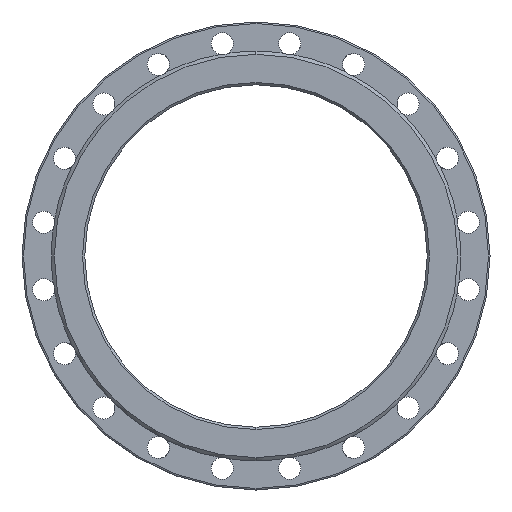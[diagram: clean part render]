
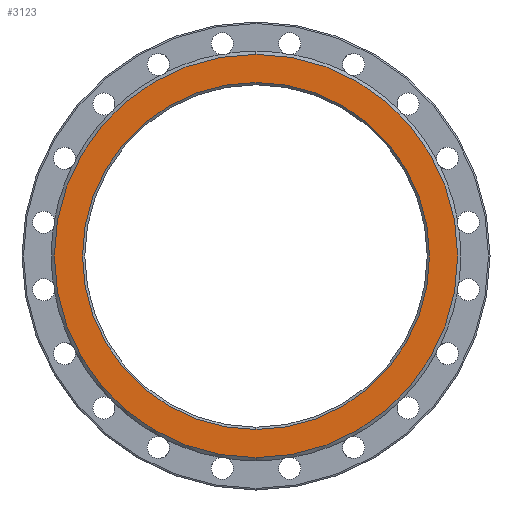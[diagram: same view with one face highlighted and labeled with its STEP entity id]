
A CAD part, left-side view. The second image highlights one B-rep face of the part: STEP entity #3123.
In plain terms, the highlighted planar face has unit normal (-1, 0, 0).
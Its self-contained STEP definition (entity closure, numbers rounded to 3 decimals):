
#6 = EDGE_LOOP ( 'NONE', ( #2887, #3178 ) ) ;
#277 = CARTESIAN_POINT ( 'NONE',  ( -250., 0., 0. ) ) ;
#331 = EDGE_CURVE ( 'Defeatured_0_4+Defeatured_0_0+Defeatured_0_0+Defeatured_0_0', #4950, #1623, #4371, .T. ) ;
#361 = AXIS2_PLACEMENT_3D ( 'NONE', #4535, #1691, #418 ) ;
#418 = DIRECTION ( 'NONE',  ( 0., 0., -1. ) ) ;
#489 = CARTESIAN_POINT ( 'NONE',  ( -250., 0., -228. ) ) ;
#812 = CIRCLE ( 'NONE', #1801, 228. ) ;
#824 = CARTESIAN_POINT ( 'NONE',  ( -250., 0., 0. ) ) ;
#1595 = PLANE ( 'NONE',  #7512 ) ;
#1611 = ORIENTED_EDGE ( 'NONE', *, *, #2831, .T. ) ;
#1623 = VERTEX_POINT ( 'NONE', #3205 ) ;
#1691 = DIRECTION ( 'NONE',  ( 1., 0., 0. ) ) ;
#1712 = CARTESIAN_POINT ( 'NONE',  ( -250., 0., 228. ) ) ;
#1801 = AXIS2_PLACEMENT_3D ( 'NONE', #277, #2692, #3314 ) ;
#2341 = VERTEX_POINT ( 'NONE', #489 ) ;
#2692 = DIRECTION ( 'NONE',  ( 1., 0., 0. ) ) ;
#2831 = EDGE_CURVE ( 'Defeatured_0_4+Defeatured_0_0+Defeatured_0_0+Defeatured_0_0', #1623, #4950, #3544, .T. ) ;
#2887 = ORIENTED_EDGE ( 'NONE', *, *, #5764, .T. ) ;
#2999 = CARTESIAN_POINT ( 'NONE',  ( -250., 0., 0. ) ) ;
#3123 = ADVANCED_FACE ( 'Defeatured_0_4', ( #3352, #3818 ), #1595, .F. ) ;
#3125 = EDGE_CURVE ( 'Defeatured_0_4+Defeatured_0_63+Defeatured_0_63+Defeatured_0_63', #2341, #3420, #812, .T. ) ;
#3178 = ORIENTED_EDGE ( 'NONE', *, *, #3125, .T. ) ;
#3203 = DIRECTION ( 'NONE',  ( 0., 0., 1. ) ) ;
#3205 = CARTESIAN_POINT ( 'NONE',  ( -250., 0., 265. ) ) ;
#3314 = DIRECTION ( 'NONE',  ( 0., 0., -1. ) ) ;
#3352 = FACE_BOUND ( 'NONE', #6, .T. ) ;
#3420 = VERTEX_POINT ( 'NONE', #1712 ) ;
#3451 = CIRCLE ( 'NONE', #361, 228. ) ;
#3544 = CIRCLE ( 'NONE', #5028, 265. ) ;
#3664 = DIRECTION ( 'NONE',  ( -1., 0., 0. ) ) ;
#3818 = FACE_OUTER_BOUND ( 'NONE', #7591, .T. ) ;
#4371 = CIRCLE ( 'NONE', #5114, 265. ) ;
#4535 = CARTESIAN_POINT ( 'NONE',  ( -250., 0., 0. ) ) ;
#4950 = VERTEX_POINT ( 'NONE', #7032 ) ;
#5028 = AXIS2_PLACEMENT_3D ( 'NONE', #2999, #5355, #6563 ) ;
#5114 = AXIS2_PLACEMENT_3D ( 'NONE', #824, #3664, #3203 ) ;
#5355 = DIRECTION ( 'NONE',  ( -1., 0., 0. ) ) ;
#5764 = EDGE_CURVE ( 'Defeatured_0_4+Defeatured_0_63+Defeatured_0_63+Defeatured_0_63', #3420, #2341, #3451, .T. ) ;
#6254 = DIRECTION ( 'NONE',  ( 1., 0., 0. ) ) ;
#6329 = DIRECTION ( 'NONE',  ( 0., 0., -1. ) ) ;
#6563 = DIRECTION ( 'NONE',  ( 0., 0., 1. ) ) ;
#6809 = CARTESIAN_POINT ( 'NONE',  ( -250., 225., 0. ) ) ;
#6987 = ORIENTED_EDGE ( 'NONE', *, *, #331, .T. ) ;
#7032 = CARTESIAN_POINT ( 'NONE',  ( -250., 0., -265. ) ) ;
#7512 = AXIS2_PLACEMENT_3D ( 'NONE', #6809, #6254, #6329 ) ;
#7591 = EDGE_LOOP ( 'NONE', ( #6987, #1611 ) ) ;
